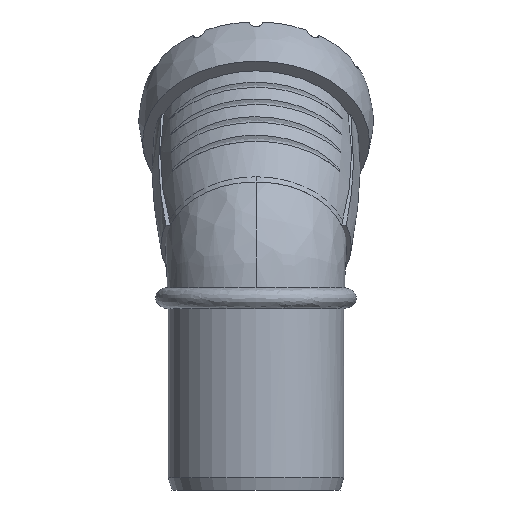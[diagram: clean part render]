
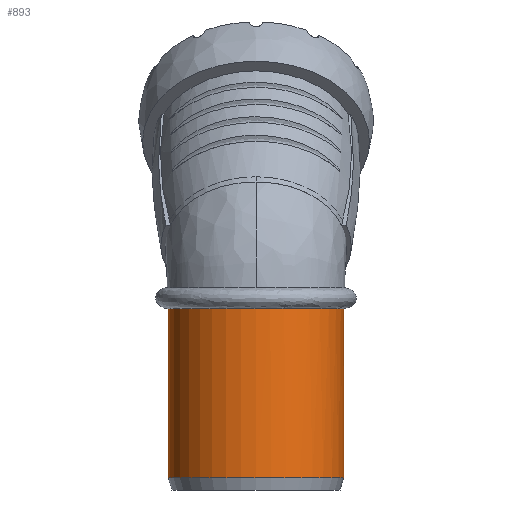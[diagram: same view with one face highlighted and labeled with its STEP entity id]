
A CAD part, left-side view. The second image highlights one B-rep face of the part: STEP entity #893.
In plain terms, the highlighted cylindrical face has radius 25.075 mm (diameter 50.15 mm), a full revolution.
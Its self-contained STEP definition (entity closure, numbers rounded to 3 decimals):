
#35=FACE_BOUND('',#160,.T.);
#59=CYLINDRICAL_SURFACE('',#960,25.075);
#105=FACE_OUTER_BOUND('',#159,.T.);
#159=EDGE_LOOP('',(#589,#590,#591,#592));
#160=EDGE_LOOP('',(#593));
#230=CIRCLE('',#949,25.075);
#235=CIRCLE('',#961,25.075);
#236=CIRCLE('',#962,25.075);
#237=CIRCLE('',#963,25.075);
#238=CIRCLE('',#964,25.075);
#343=VERTEX_POINT('',#1361);
#345=VERTEX_POINT('',#1382);
#352=VERTEX_POINT('',#1497);
#353=VERTEX_POINT('',#1499);
#354=VERTEX_POINT('',#1502);
#440=EDGE_CURVE('',#343,#345,#230,.T.);
#451=EDGE_CURVE('',#352,#343,#235,.T.);
#452=EDGE_CURVE('',#345,#353,#236,.T.);
#453=EDGE_CURVE('',#353,#352,#237,.T.);
#454=EDGE_CURVE('',#354,#354,#238,.T.);
#589=ORIENTED_EDGE('',*,*,#451,.T.);
#590=ORIENTED_EDGE('',*,*,#440,.T.);
#591=ORIENTED_EDGE('',*,*,#452,.T.);
#592=ORIENTED_EDGE('',*,*,#453,.T.);
#593=ORIENTED_EDGE('',*,*,#454,.F.);
#893=ADVANCED_FACE('',(#105,#35),#59,.T.);
#949=AXIS2_PLACEMENT_3D('',#1397,#1041,#1042);
#960=AXIS2_PLACEMENT_3D('',#1496,#1063,#1064);
#961=AXIS2_PLACEMENT_3D('',#1498,#1065,#1066);
#962=AXIS2_PLACEMENT_3D('',#1500,#1067,#1068);
#963=AXIS2_PLACEMENT_3D('',#1501,#1069,#1070);
#964=AXIS2_PLACEMENT_3D('',#1503,#1071,#1072);
#1041=DIRECTION('center_axis',(0.,0.,-1.));
#1042=DIRECTION('ref_axis',(1.,0.,0.));
#1063=DIRECTION('center_axis',(0.,0.,-1.));
#1064=DIRECTION('ref_axis',(0.,1.,0.));
#1065=DIRECTION('center_axis',(0.,0.,-1.));
#1066=DIRECTION('ref_axis',(1.,0.,0.));
#1067=DIRECTION('center_axis',(0.,0.,-1.));
#1068=DIRECTION('ref_axis',(1.,0.,0.));
#1069=DIRECTION('center_axis',(0.,0.,-1.));
#1070=DIRECTION('ref_axis',(1.,0.,0.));
#1071=DIRECTION('center_axis',(0.,0.,-1.));
#1072=DIRECTION('ref_axis',(1.,0.,0.));
#1361=CARTESIAN_POINT('',(5.413,24.484,51.8));
#1382=CARTESIAN_POINT('',(5.413,-24.484,51.8));
#1397=CARTESIAN_POINT('Origin',(0.,0.,51.8));
#1496=CARTESIAN_POINT('Origin',(0.,0.,27.65));
#1497=CARTESIAN_POINT('',(0.,25.075,51.8));
#1498=CARTESIAN_POINT('Origin',(0.,0.,51.8));
#1499=CARTESIAN_POINT('',(-25.075,0.,51.8));
#1500=CARTESIAN_POINT('Origin',(0.,0.,51.8));
#1501=CARTESIAN_POINT('Origin',(0.,0.,51.8));
#1502=CARTESIAN_POINT('',(0.,25.075,3.5));
#1503=CARTESIAN_POINT('Origin',(0.,0.,3.5));
